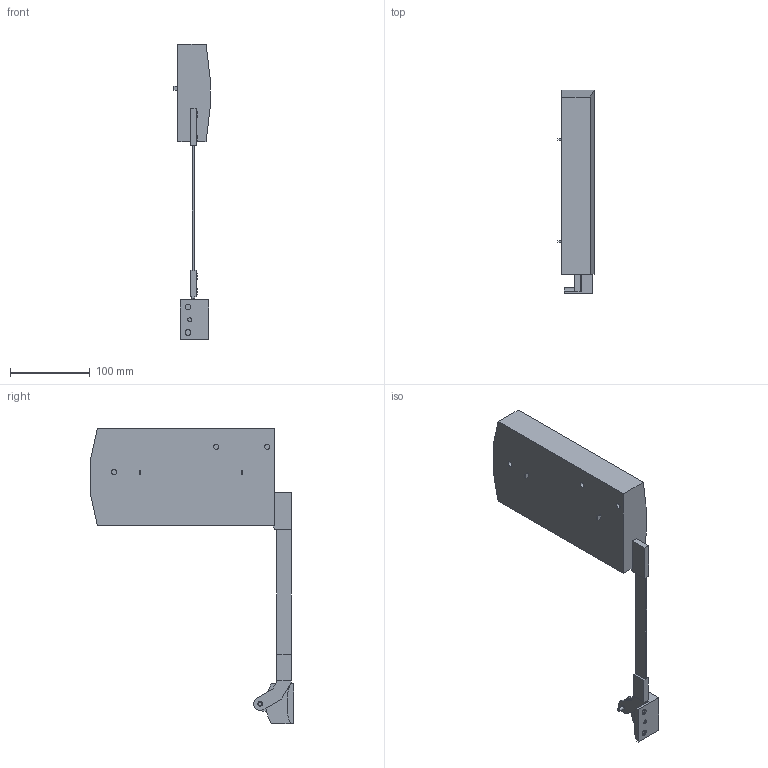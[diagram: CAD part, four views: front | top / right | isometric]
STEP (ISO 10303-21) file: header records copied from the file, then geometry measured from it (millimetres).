
FILE_DESCRIPTION (( 'STEP AP214' ), '1' );
FILE_NAME ('F152147837_KINVARO F20 SET WITH BKT_TYP 2B_L_CLOSED.step', '2021-02-17T08:19:09', ( '' ), ( '' ), 'SwSTEP 2.0', 'SolidWorks 2019', '' );
FILE_SCHEMA (( 'AUTOMOTIVE_DESIGN' ));
Length unit declared in the file: millimetre
Products named in the file (1): F152147837_KINVARO F20 SET WITH BKT_TYP 2B_L_CLOSED
Bounding box: 45.35 x 255.03 x 370.63 mm (x, y, z)
Volume: 1132889.5 mm3; surface area: 103708.4 mm2
Topology: 1 solids, 1 shells, 119 faces, 294 edges, 196 vertices
Faces by surface type: plane 93, cylinder 20, bspline 6
Entity records: 4280 total; most frequent: CARTESIAN_POINT 1408, ORIENTED_EDGE 588, DIRECTION 552, EDGE_CURVE 294, LINE 240, VECTOR 240, VERTEX_POINT 196, AXIS2_PLACEMENT_3D 156
